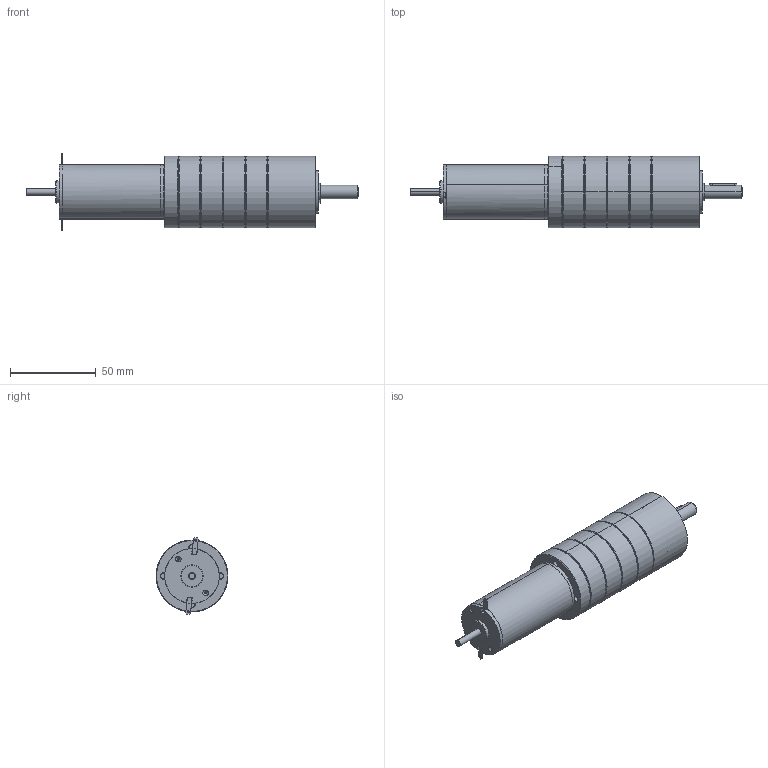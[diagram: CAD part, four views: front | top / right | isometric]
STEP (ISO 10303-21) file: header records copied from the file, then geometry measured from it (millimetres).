
FILE_DESCRIPTION (( 'STEP AP214' ), '1' );
FILE_NAME ('Amax32_+_PM42 -4etages.STEP', '2014-05-19T10:20:20', ( '' ), ( '' ), 'SwSTEP 2.0', 'SolidWorks 2013', '' );
FILE_SCHEMA (( 'AUTOMOTIVE_DESIGN' ));
Length unit declared in the file: millimetre
Products named in the file (16): Amax32_+_PM42 -4etages; AMax32GHP_Part; SCHRAUBE_1241978_10; MOTORRITZEL_Z17_1280117; 8001288_ANLAUFSCHEIBE_1ST_4; MOTORFLANSCH_1254861; P8209_8007589_ZAHNKRANZ_Z46_4; 8007606_DICHTRING_4; 3X3X16_D6885A_5; D471_8X0_8_5; 8001316_ABTRIEB_LK4_KPL_4; 8001305_LAGERBOLZEN_5; VBZ_K7841_ABTRIEB_AF0_5; DIN998_PS_8X14X1_5; D625-608-2RS_4; 8007595_LAGERFLANSCH_4
Assembly tree (29 placements, depth 3):
  Amax32_+_PM42 -4etages
    8007595_LAGERFLANSCH_4
    D625-608-2RS_4  x2
    DIN998_PS_8X14X1_5  x2
    8001316_ABTRIEB_LK4_KPL_4
      VBZ_K7841_ABTRIEB_AF0_5
      8001305_LAGERBOLZEN_5  x3
    D471_8X0_8_5
    3X3X16_D6885A_5
    8007606_DICHTRING_4  x5
    P8209_8007589_ZAHNKRANZ_Z46_4  x4
    MOTORFLANSCH_1254861
    8001288_ANLAUFSCHEIBE_1ST_4
    MOTORRITZEL_Z17_1280117
    SCHRAUBE_1241978_10  x4
    AMax32GHP_Part
Bounding box: 194.15 x 42 x 44.9 mm (x, y, z)
Volume: 95378.9 mm3; surface area: 73340.2 mm2
Topology: 25 solids, 51 shells, 1532 faces, 4120 edges, 2685 vertices
Faces by surface type: cylinder 766, plane 572, cone 138, bspline 52, torus 4
Entity records: 25476 total; most frequent: CARTESIAN_POINT 5488, DIRECTION 4157, ORIENTED_EDGE 3658, EDGE_CURVE 1857, AXIS2_PLACEMENT_3D 1604, VERTEX_POINT 1211, LINE 949, VECTOR 949
